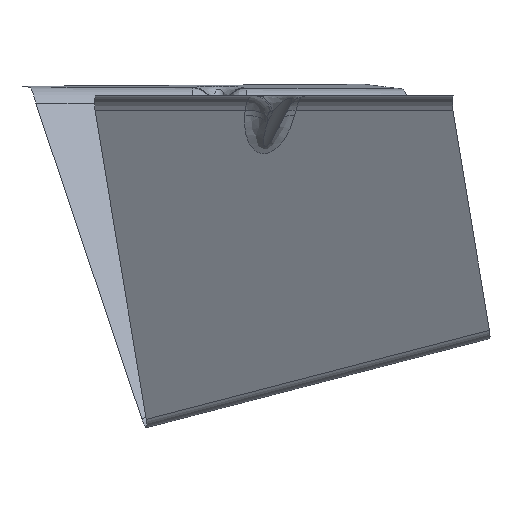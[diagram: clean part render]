
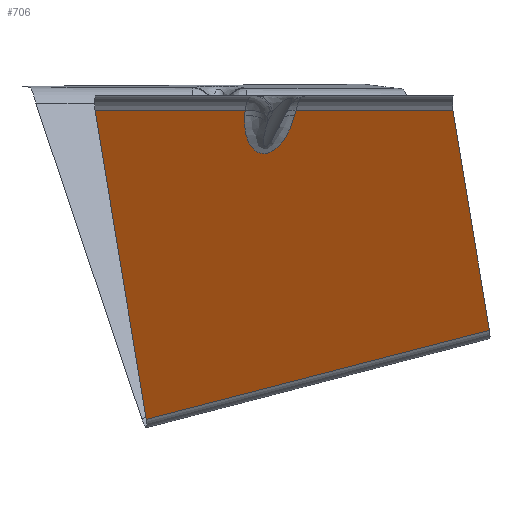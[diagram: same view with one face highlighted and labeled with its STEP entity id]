
A CAD part, left-side view. The second image highlights one B-rep face of the part: STEP entity #706.
In plain terms, the highlighted planar face has unit normal (-0.83, -0.249, -0.5).
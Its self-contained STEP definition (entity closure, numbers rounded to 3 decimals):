
#251=CARTESIAN_POINT('Vertex',(-97.303,8.273,-0.8)) ;
#274=CARTESIAN_POINT('Line Origine',(-77.075,10.649,-35.541)) ;
#278=CARTESIAN_POINT('Vertex',(-96.452,8.373,-2.262)) ;
#591=CARTESIAN_POINT('Control Point',(-92.263,-5.587,-2.262)) ;
#592=CARTESIAN_POINT('Control Point',(-92.04,-5.475,-2.687)) ;
#593=CARTESIAN_POINT('Control Point',(-91.821,-5.353,-3.113)) ;
#594=CARTESIAN_POINT('Control Point',(-91.604,-5.22,-3.538)) ;
#595=CARTESIAN_POINT('Control Point',(-90.992,-4.808,-4.758)) ;
#596=CARTESIAN_POINT('Control Point',(-90.414,-4.302,-5.97)) ;
#597=CARTESIAN_POINT('Control Point',(-90.054,-3.931,-6.751)) ;
#598=CARTESIAN_POINT('Control Point',(-89.568,-3.333,-7.856)) ;
#599=CARTESIAN_POINT('Control Point',(-89.136,-2.612,-8.931)) ;
#600=CARTESIAN_POINT('Control Point',(-89.012,-2.385,-9.249)) ;
#601=CARTESIAN_POINT('Control Point',(-88.797,-1.944,-9.825)) ;
#602=CARTESIAN_POINT('Control Point',(-88.608,-1.452,-10.384)) ;
#603=CARTESIAN_POINT('Control Point',(-88.528,-1.215,-10.635)) ;
#604=CARTESIAN_POINT('Control Point',(-88.35,-0.604,-11.234)) ;
#605=CARTESIAN_POINT('Control Point',(-88.228,0.097,-11.786)) ;
#606=CARTESIAN_POINT('Control Point',(-88.18,0.552,-12.092)) ;
#607=CARTESIAN_POINT('Control Point',(-88.164,1.264,-12.474)) ;
#608=CARTESIAN_POINT('Control Point',(-88.256,2.062,-12.718)) ;
#609=CARTESIAN_POINT('Control Point',(-88.294,2.305,-12.776)) ;
#610=CARTESIAN_POINT('Control Point',(-88.391,2.79,-12.855)) ;
#611=CARTESIAN_POINT('Control Point',(-88.533,3.276,-12.862)) ;
#612=CARTESIAN_POINT('Control Point',(-88.612,3.511,-12.847)) ;
#613=CARTESIAN_POINT('Control Point',(-88.853,4.134,-12.758)) ;
#614=CARTESIAN_POINT('Control Point',(-89.143,4.69,-12.554)) ;
#615=CARTESIAN_POINT('Control Point',(-89.338,5.009,-12.388)) ;
#616=CARTESIAN_POINT('Control Point',(-89.683,5.506,-12.063)) ;
#617=CARTESIAN_POINT('Control Point',(-90.035,5.922,-11.687)) ;
#618=CARTESIAN_POINT('Control Point',(-90.185,6.086,-11.52)) ;
#619=CARTESIAN_POINT('Control Point',(-90.523,6.431,-11.13)) ;
#620=CARTESIAN_POINT('Control Point',(-90.86,6.724,-10.717)) ;
#621=CARTESIAN_POINT('Control Point',(-91.047,6.873,-10.481)) ;
#622=CARTESIAN_POINT('Control Point',(-91.467,7.183,-9.939)) ;
#623=CARTESIAN_POINT('Control Point',(-91.88,7.436,-9.379)) ;
#624=CARTESIAN_POINT('Control Point',(-92.109,7.562,-9.062)) ;
#625=CARTESIAN_POINT('Control Point',(-92.617,7.815,-8.346)) ;
#626=CARTESIAN_POINT('Control Point',(-93.114,8.007,-7.616)) ;
#627=CARTESIAN_POINT('Control Point',(-93.388,8.097,-7.208)) ;
#628=CARTESIAN_POINT('Control Point',(-94.19,8.321,-5.987)) ;
#629=CARTESIAN_POINT('Control Point',(-94.968,8.424,-4.749)) ;
#630=CARTESIAN_POINT('Control Point',(-95.473,8.448,-3.923)) ;
#631=CARTESIAN_POINT('Control Point',(-95.967,8.43,-3.093)) ;
#632=CARTESIAN_POINT('Control Point',(-96.452,8.373,-2.262)) ;
#633=CARTESIAN_POINT('Vertex',(-92.263,-5.587,-2.262)) ;
#651=CARTESIAN_POINT('Axis2P3D Location',(-43.145,-12.944,-80.087)) ;
#656=CARTESIAN_POINT('Line Origine',(-92.646,-5.78,-1.531)) ;
#660=CARTESIAN_POINT('Vertex',(-93.029,-5.972,-0.8)) ;
#663=CARTESIAN_POINT('Line Origine',(-103.593,29.242,-0.8)) ;
#667=CARTESIAN_POINT('Vertex',(-109.884,50.21,-0.8)) ;
#670=CARTESIAN_POINT('Line Origine',(-81.726,43.051,-43.951)) ;
#674=CARTESIAN_POINT('Vertex',(-53.568,35.893,-87.102)) ;
#677=CARTESIAN_POINT('Line Origine',(-46.687,-12.043,-74.66)) ;
#681=CARTESIAN_POINT('Vertex',(-39.806,-59.979,-62.217)) ;
#684=CARTESIAN_POINT('Line Origine',(-59.845,-54.884,-31.509)) ;
#688=CARTESIAN_POINT('Vertex',(-79.884,-49.79,-0.8)) ;
#691=CARTESIAN_POINT('Line Origine',(-86.456,-27.881,-0.8)) ;
#275=DIRECTION('Vector Direction',(0.502,0.059,-0.863)) ;
#652=DIRECTION('Axis2P3D Direction',(0.83,0.249,0.5)) ;
#653=DIRECTION('Axis2P3D XDirection',(0.541,-0.138,-0.83)) ;
#657=DIRECTION('Vector Direction',(-0.452,-0.227,0.863)) ;
#664=DIRECTION('Vector Direction',(0.287,-0.958,0.)) ;
#671=DIRECTION('Vector Direction',(0.541,-0.138,-0.83)) ;
#678=DIRECTION('Vector Direction',(0.138,-0.959,0.249)) ;
#685=DIRECTION('Vector Direction',(-0.541,0.138,0.83)) ;
#692=DIRECTION('Vector Direction',(0.287,-0.958,0.)) ;
#654=AXIS2_PLACEMENT_3D('Plane Axis2P3D',#651,#652,#653) ;
#697=ORIENTED_EDGE('',*,*,#662,.T.) ;
#698=ORIENTED_EDGE('',*,*,#635,.T.) ;
#699=ORIENTED_EDGE('',*,*,#280,.T.) ;
#700=ORIENTED_EDGE('',*,*,#669,.F.) ;
#701=ORIENTED_EDGE('',*,*,#676,.T.) ;
#702=ORIENTED_EDGE('',*,*,#683,.T.) ;
#703=ORIENTED_EDGE('',*,*,#690,.T.) ;
#704=ORIENTED_EDGE('',*,*,#695,.F.) ;
#276=VECTOR('Line Direction',#275,1.) ;
#658=VECTOR('Line Direction',#657,1.) ;
#665=VECTOR('Line Direction',#664,1.) ;
#672=VECTOR('Line Direction',#671,1.) ;
#679=VECTOR('Line Direction',#678,1.) ;
#686=VECTOR('Line Direction',#685,1.) ;
#693=VECTOR('Line Direction',#692,1.) ;
#706=ADVANCED_FACE('Extract.1',(#705),#655,.F.) ;
#590=B_SPLINE_CURVE_WITH_KNOTS('',5,(#591,#592,#593,#594,#595,#596,#597,#598,#599,#600,#601,#602,#603,#604,#605,#606,#607,#608,#609,#610,#611,#612,#613,#614,#615,#616,#617,#618,#619,#620,#621,#622,#623,#624,#625,#626,#627,#628,#629,#630,#631,#632),.UNSPECIFIED.,.F.,.U.,(6,3,3,3,3,3,3,3,3,3,3,3,3,6),(25.978,29.26,35.415,38.019,40.215,43.375,44.704,45.984,48.207,49.855,51.928,54.543,57.782,64.188),.UNSPECIFIED.) ;
#280=EDGE_CURVE('',#279,#252,#277,.F.) ;
#635=EDGE_CURVE('',#634,#279,#590,.T.) ;
#662=EDGE_CURVE('',#661,#634,#659,.F.) ;
#669=EDGE_CURVE('',#668,#252,#666,.T.) ;
#676=EDGE_CURVE('',#668,#675,#673,.T.) ;
#683=EDGE_CURVE('',#675,#682,#680,.T.) ;
#690=EDGE_CURVE('',#682,#689,#687,.T.) ;
#695=EDGE_CURVE('',#661,#689,#694,.T.) ;
#696=EDGE_LOOP('',(#697,#698,#699,#700,#701,#702,#703,#704)) ;
#705=FACE_OUTER_BOUND('',#696,.T.) ;
#277=LINE('Line',#274,#276) ;
#659=LINE('Line',#656,#658) ;
#666=LINE('Line',#663,#665) ;
#673=LINE('Line',#670,#672) ;
#680=LINE('Line',#677,#679) ;
#687=LINE('Line',#684,#686) ;
#694=LINE('Line',#691,#693) ;
#655=PLANE('',#654) ;
#252=VERTEX_POINT('',#251) ;
#279=VERTEX_POINT('',#278) ;
#634=VERTEX_POINT('',#633) ;
#661=VERTEX_POINT('',#660) ;
#668=VERTEX_POINT('',#667) ;
#675=VERTEX_POINT('',#674) ;
#682=VERTEX_POINT('',#681) ;
#689=VERTEX_POINT('',#688) ;
